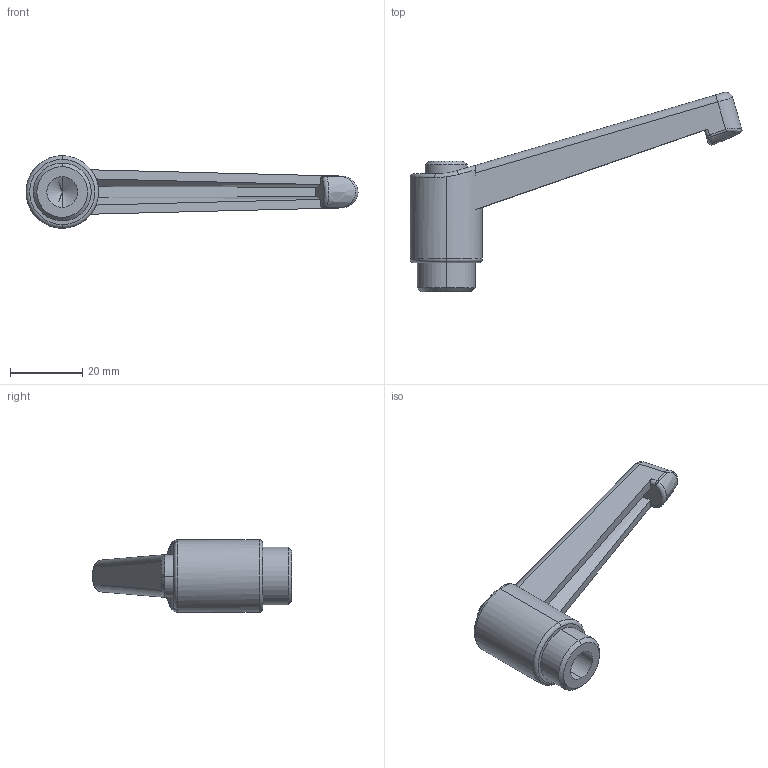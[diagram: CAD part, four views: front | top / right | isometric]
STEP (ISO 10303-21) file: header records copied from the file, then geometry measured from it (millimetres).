
FILE_DESCRIPTION (( 'STEP AP203' ), '1' );
FILE_NAME ('AS-405-78-M10.STEP', '2015-11-23T07:19:17', ( '' ), ( '' ), 'SwSTEP 2.0', 'SolidWorks 2014', '' );
FILE_SCHEMA (( 'CONFIG_CONTROL_DESIGN' ));
Length unit declared in the file: millimetre
Products named in the file (1): AS-405-78-M10
Bounding box: 91.66 x 55.01 x 20 mm (x, y, z)
Volume: 15185.3 mm3; surface area: 6436.3 mm2
Topology: 1 solids, 1 shells, 55 faces, 132 edges, 79 vertices
Faces by surface type: cylinder 15, plane 15, bspline 11, cone 6, torus 4, sphere 4
Entity records: 2133 total; most frequent: CARTESIAN_POINT 887, ORIENTED_EDGE 260, DIRECTION 229, EDGE_CURVE 130, AXIS2_PLACEMENT_3D 95, VERTEX_POINT 79, EDGE_LOOP 57, FACE_OUTER_BOUND 55
